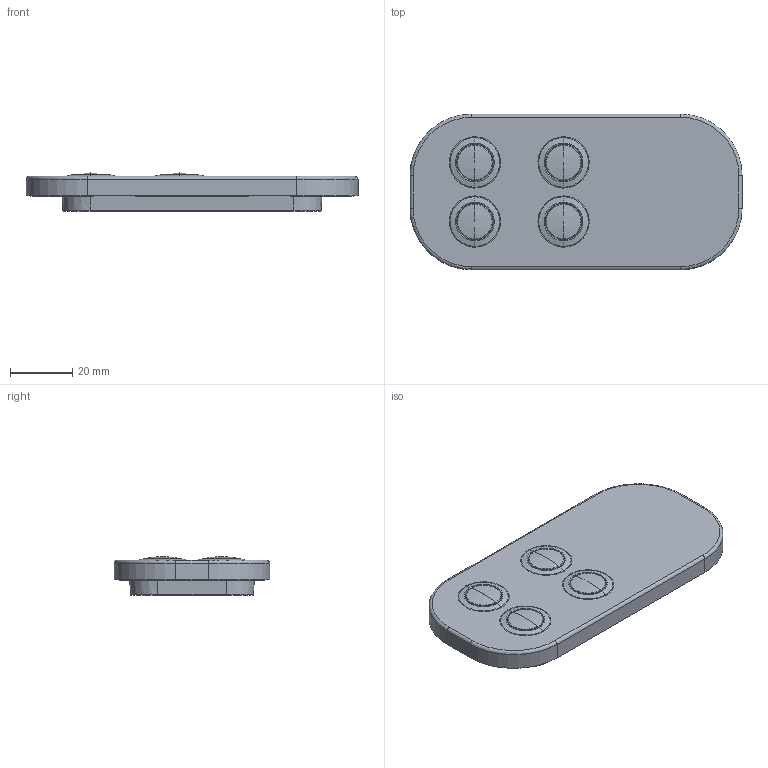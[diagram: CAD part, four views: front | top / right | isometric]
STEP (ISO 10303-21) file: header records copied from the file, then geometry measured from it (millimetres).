
FILE_DESCRIPTION((''),'2;1');
FILE_NAME('1055W4018','2025-09-22T11:27:44',('jak'),(''),'CREO PARAMETRIC BY PTC INC, 2022024','CREO PARAMETRIC BY PTC INC, 2022024','');
FILE_SCHEMA(('AUTOMOTIVE_DESIGN { 1 0 10303 214 1 1 1 1 }'));
Length unit declared in the file: millimetre
Products named in the file (1): 1055W4018
Bounding box: 106.7 x 50 x 12.35 mm (x, y, z)
Volume: 44022.8 mm3; surface area: 17875.5 mm2
Topology: 1 solids, 1 shells, 371 faces, 1014 edges, 642 vertices
Faces by surface type: plane 137, cylinder 78, cone 76, torus 32, bspline 24, sphere 24
Entity records: 12775 total; most frequent: CARTESIAN_POINT 3375, ORIENTED_EDGE 1988, DIRECTION 1946, EDGE_CURVE 994, AXIS2_PLACEMENT_3D 753, VERTEX_POINT 642, VECTOR 440, LINE 440
